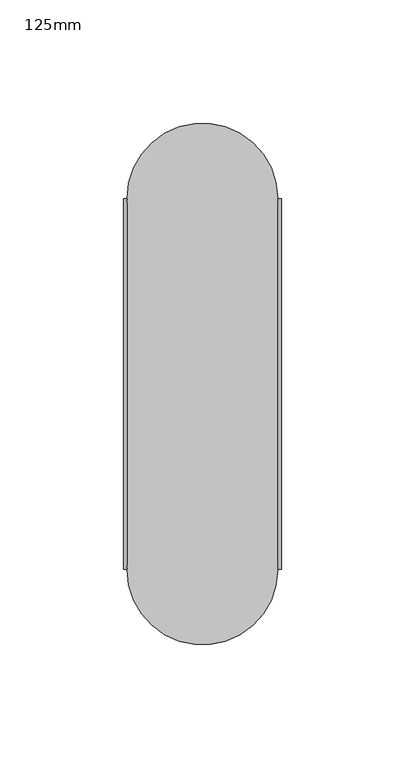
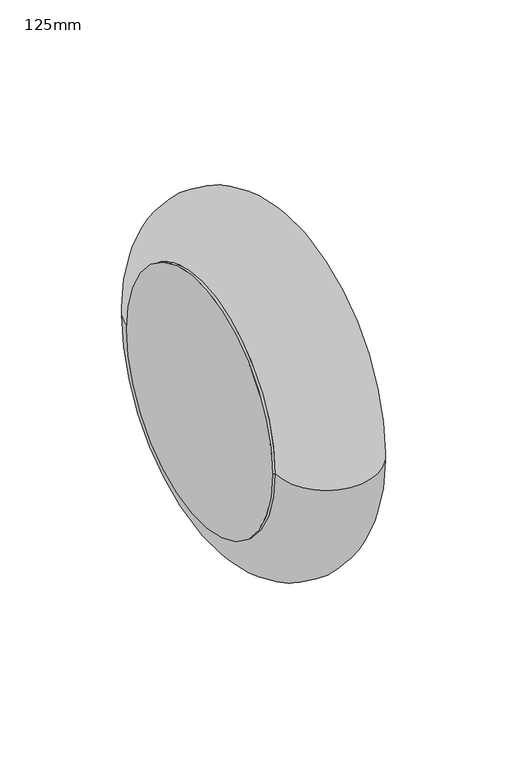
"""IFC4 building model written with IfcOpenShell, lengths in millimetres: pipe fitting geometry, PipeAccessory_HTA_CPVC_LinearExpansionCompensatorPN16 : 125mm."""

from ifc_helpers import new_model, si_unit, point, frame, origin, origin_2d, place, context, project, spatial, circle_curve, ellipse_curve, trimmed, segment, composite_curve, outline, extrude, source, transform, mapped, element, save
from ifc_brep_helpers import plane_surface, revolved_surface, advanced_brep


def pipe_fitting_125mm_ed8c1b47(model_context):
    return source(origin(), model_context, "Body", "SolidModel", [
        extrude(outline(composite_curve([segment(trimmed(circle_curve(origin_2d(), 75.0), [point((-75.0, 0.0))], [point((75.0, 0.0))], False, "CARTESIAN"), True, "CONTINUOUS"), segment(trimmed(circle_curve(origin_2d(), 75.0), [point((75.0, 0.0))], [point((-75.0, 0.0))], False, "CARTESIAN"), True, "CONTINUOUS")], self_intersect=False)), frame((30.5, 0.0, 0.0), z_axis=(1.0, 0.0, 0.0), x_axis=(0.0, 1.0, 0.0)), (0.0, 0.0, 1.0), 1.5),
        extrude(outline(composite_curve([segment(trimmed(circle_curve(origin_2d(), 75.0), [point((-75.0, 0.0))], [point((75.0, 0.0))], False, "CARTESIAN"), True, "CONTINUOUS"), segment(trimmed(circle_curve(origin_2d(), 75.0), [point((75.0, 0.0))], [point((-75.0, 0.0))], False, "CARTESIAN"), True, "CONTINUOUS")], self_intersect=False)), frame((-32.0, 0.0, 0.0), z_axis=(1.0, 0.0, 0.0), x_axis=(0.0, 1.0, 0.0)), (0.0, 0.0, 1.0), 1.5),
        advanced_brep(
        [(-30.5, 0.0, 0.0), (-30.5, 75.0, 0.0), (-30.5, -75.0, 0.0), (30.5, -75.0, 0.0), (30.5, 75.0, 0.0), (30.5, 0.0, 0.0)],
        [
            (0, 1),
            (1, 2, circle_curve(frame((-30.5, 0.0, 0.0), z_axis=(-1.0, 0.0, 0.0), x_axis=(0.0, 1.0, 0.0)), 75.0)),
            (2, 0),
            (2, 1, circle_curve(frame((-30.5, 0.0, 0.0), z_axis=(-1.0, 0.0, 0.0), x_axis=(0.0, 1.0, 0.0)), 75.0)),
            (3, 4, circle_curve(frame((30.5, 0.0, 0.0), z_axis=(1.0, 0.0, 0.0), x_axis=(0.0, 1.0, 0.0)), 75.0)),
            (4, 5),
            (5, 3),
            (4, 3, circle_curve(frame((30.5, 0.0, 0.0), z_axis=(1.0, 0.0, 0.0), x_axis=(0.0, 1.0, 0.0)), 75.0)),
            (1, 4, circle_curve(frame((0.0, 75.0, 0.0), z_axis=(0.0, 0.0, -1.0), x_axis=(1.0, 0.0, 0.0)), 30.5)),
            (3, 2, circle_curve(frame((0.0, -75.0, 0.0), z_axis=(0.0, 0.0, -1.0), x_axis=(1.0, 0.0, 0.0)), 30.5)),
        ],
        [
            plane_surface(frame((-30.5, 0.0, 0.0), z_axis=(-1.0, 0.0, 0.0), x_axis=(0.0, 1.0, 0.0))),
            plane_surface(frame((30.5, 0.0, 0.0), z_axis=(1.0, 0.0, 0.0), x_axis=(0.0, 1.0, 0.0))),
            revolved_surface(trimmed(ellipse_curve(frame((0.0, 75.0, 0.0), z_axis=(0.0, 0.0, 1.0), x_axis=(1.0, 0.0, 0.0)), 30.5, 30.5), [point((30.5, 75.0, 0.0))], [point((-30.5, 75.0, 0.0))], True, "CARTESIAN"), (-30.5, 0.0, 0.0), (-1.0, 0.0, 0.0)),
        ],
        [
            (0, [[1, 2, 3]]),
            (0, [[-3, 4, -1]]),
            (1, [[5, 6, 7]]),
            (1, [[8, -7, -6]]),
            (2, [[-2, 9, -5, 10]]),
            (2, [[-4, -10, -8, -9]]),
        ],
    ),
    ])


if __name__ == "__main__":
    model = new_model("IFC4")
    model_context = context("Model", 3, world=origin())
    ifc_project = project(units=[si_unit("LENGTHUNIT", "METRE", prefix="MILLI")], contexts=[model_context])
    site = spatial("IfcSite", under=ifc_project)
    building = spatial("IfcBuilding", under=site)
    placement = place(None, origin())
    pipe_fitting_125mm_shape = pipe_fitting_125mm_ed8c1b47(model_context)
    element("IfcPipeFitting", 1, ObjectType="PipeAccessory_HTA_CPVC_LinearExpansionCompensatorPN16 : 125mm", at=placement, inside=building, context=model_context, shape_type="MappedRepresentation", body=[
        mapped(pipe_fitting_125mm_shape, transform((0.0, 0.0, 0.0), x_axis=(1.0, 0.0, 0.0), y_axis=(0.0, 1.0, 0.0), z_axis=(0.0, 0.0, 1.0))),
    ])
    save(model, "model.ifc")
